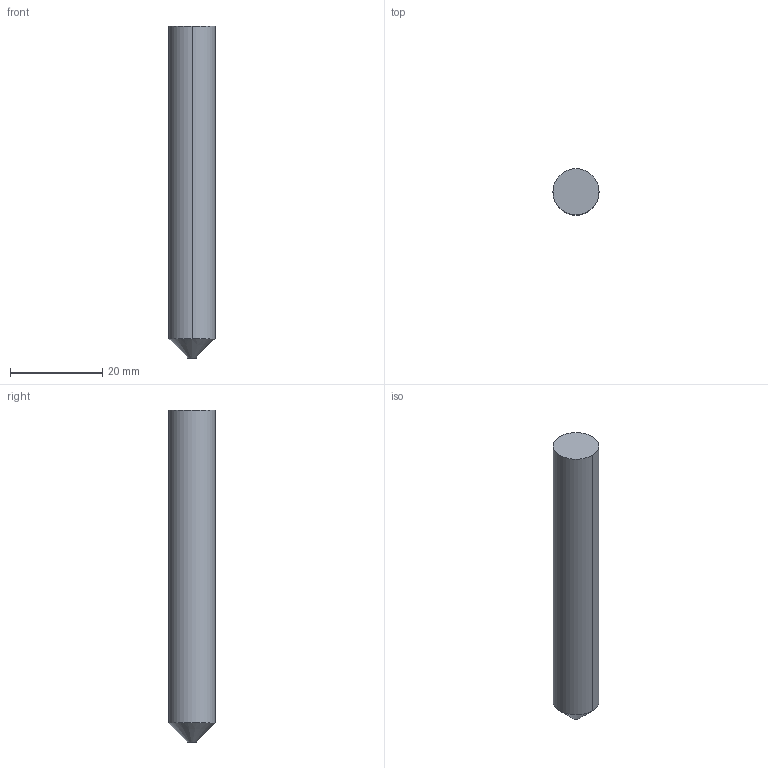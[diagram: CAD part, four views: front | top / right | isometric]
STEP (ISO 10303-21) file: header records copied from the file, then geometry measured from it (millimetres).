
FILE_DESCRIPTION((' '),'2;1');
FILE_NAME( '5HCM10003B.stp', '2026-01-21T09:09:02', (' '), ('--- Datakit www.datakit.com---'), ' Datakit CrossCadWare V2025.4 Sep 19 2025', 'Mastercam 2027', ' ');
FILE_SCHEMA(('AUTOMOTIVE_DESIGN { 1 0 10303 214 1 1 1 1 }'));
Length unit declared in the file: inch
Products named in the file (1): 5HCM10003B
Bounding box: 10 x 10 x 72 mm (x, y, z)
Volume: 5461 mm3; surface area: 2320.9 mm2
Topology: 1 solids, 1 shells, 6 faces, 10 edges, 6 vertices
Faces by surface type: plane 2, cone 2, cylinder 2
Entity records: 212 total; most frequent: DIRECTION 38, CARTESIAN_POINT 27, ORIENTED_EDGE 20, AXIS2_PLACEMENT_3D 17, EDGE_CURVE 10, VERTEX_POINT 6, CIRCLE 6, EDGE_LOOP 6
